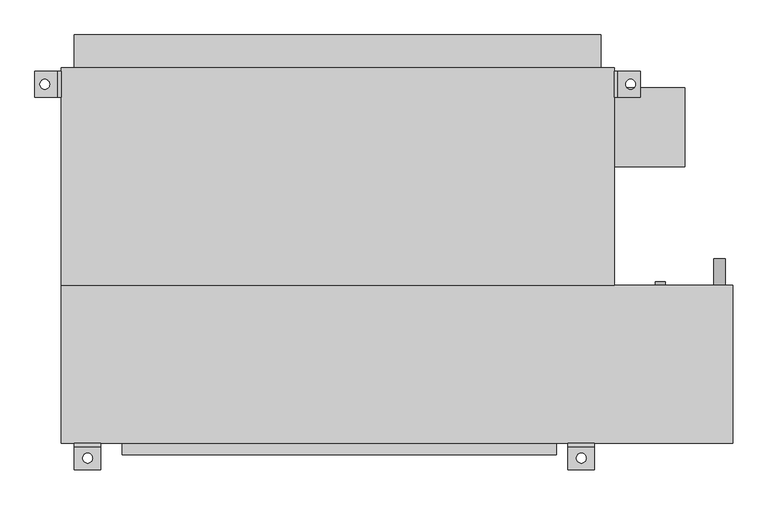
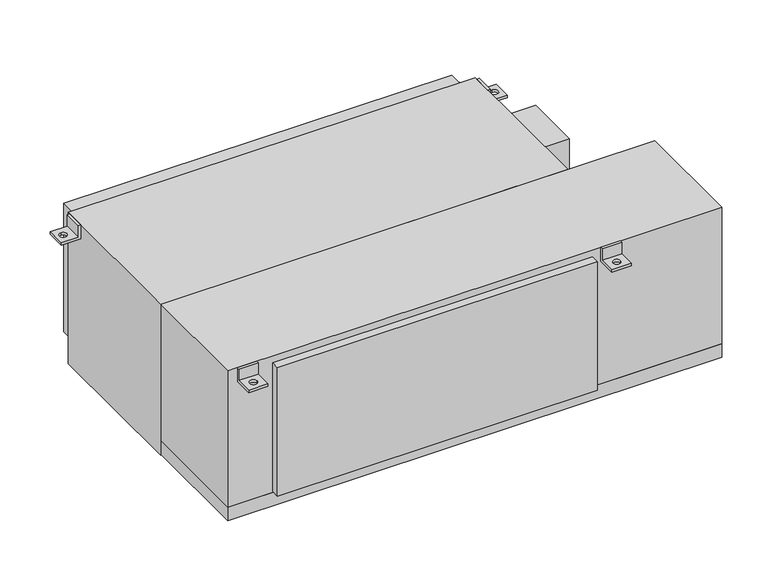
"""IFC4 building model written with IfcOpenShell, lengths in millimetres: proxy geometry, Concealed_High_Capacity_Horizontal_Fan_Coil_Unit_With_Plenum_-_42DCA_-_CARRIER_-_2-Pipe_Cool-EHeat_ValveEnclosure_RH_2022 : Size 14 - 277v/60Hz/1Ph - 6 Row 10.0kW."""

from ifc_helpers import new_model, si_unit, point, frame, frame_2d, origin, place, context, project, spatial, polyline, circle_curve, trimmed, segment, composite_curve, outline, extrude, source, transform, mapped, element, save
from ifc_brep_helpers import plane_surface, revolved_surface, advanced_brep


def mechanical_equipment_cc3e10e3(model_context):
    return source(origin(), model_context, "Body", "SolidModel", [
        advanced_brep(
        [(647.7, -390.525, 0.0), (647.7, -396.875, 0.0), (647.7, -396.875, -31.75), (647.7, -441.325, -31.75), (647.7, -441.325, -38.1), (647.7, -390.525, -38.1), (596.9, -390.525, 0.0), (596.9, -390.525, -38.1), (596.9, -441.325, -38.1), (596.9, -441.325, -31.75), (596.9, -396.875, -31.75), (596.9, -396.875, 0.0), (612.775, -419.1, -31.75), (631.825, -419.1, -31.75), (631.825, -419.1, -38.1), (612.775, -419.1, -38.1)],
        [
            (0, 1),
            (1, 2),
            (2, 3),
            (3, 4),
            (4, 5),
            (5, 0),
            (6, 7),
            (7, 8),
            (8, 9),
            (9, 10),
            (10, 11),
            (11, 6),
            (0, 6),
            (11, 1),
            (10, 2),
            (9, 3),
            (12, 13, circle_curve(frame((622.3, -419.1, -31.75), z_axis=(0.0, 0.0, -1.0), x_axis=(1.0, 0.0, 0.0)), 9.525)),
            (13, 12, circle_curve(frame((622.3, -419.1, -31.75), z_axis=(0.0, 0.0, -1.0), x_axis=(1.0, 0.0, 0.0)), 9.525)),
            (8, 4),
            (7, 5),
            (14, 15, circle_curve(frame((622.3, -419.1, -38.1), z_axis=(0.0, 0.0, 1.0), x_axis=(1.0, 0.0, 0.0)), 9.525)),
            (15, 14, circle_curve(frame((622.3, -419.1, -38.1), z_axis=(0.0, 0.0, 1.0), x_axis=(1.0, 0.0, 0.0)), 9.525)),
            (12, 15),
            (14, 13),
        ],
        [
            plane_surface(frame((647.7, -396.875, 0.0), z_axis=(1.0, 0.0, 0.0), x_axis=(0.0, -1.0, 0.0))),
            plane_surface(frame((596.9, -396.875, 0.0), z_axis=(-1.0, 0.0, 0.0), x_axis=(0.0, 1.0, 0.0))),
            plane_surface(frame((647.7, -390.525, 0.0), z_axis=(0.0, 0.0, 1.0), x_axis=(-1.0, 0.0, 0.0))),
            plane_surface(frame((647.7, -396.875, 0.0), z_axis=(0.0, -1.0, 0.0), x_axis=(-1.0, 0.0, 0.0))),
            plane_surface(frame((647.7, -396.875, -31.75), z_axis=(0.0, 0.0, 1.0), x_axis=(-1.0, 0.0, 0.0))),
            plane_surface(frame((647.7, -441.325, -31.75), z_axis=(0.0, -1.0, 0.0), x_axis=(-1.0, 0.0, 0.0))),
            plane_surface(frame((647.7, -441.325, -38.1), z_axis=(0.0, 0.0, -1.0), x_axis=(-1.0, 0.0, 0.0))),
            plane_surface(frame((647.7, -390.525, -38.1), z_axis=(0.0, 1.0, 0.0), x_axis=(-1.0, 0.0, 0.0))),
            revolved_surface(polyline([(631.8249999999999, -419.1, -38.1), (631.8249999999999, -419.1, -31.75)]), (622.3, -419.1, -31.75), (0.0, 0.0, -1.0)),
        ],
        [
            (0, [[1, 2, 3, 4, 5, 6]]),
            (1, [[7, 8, 9, 10, 11, 12]]),
            (2, [[-1, 13, -12, 14]]),
            (3, [[-2, -14, -11, 15]]),
            (4, [[-3, -15, -10, 16], [17, 18]]),
            (5, [[-4, -16, -9, 19]]),
            (6, [[-5, -19, -8, 20], [21, 22]]),
            (7, [[-6, -20, -7, -13]]),
            (8, [[23, -21, 24, -17]]),
            (8, [[-23, -18, -24, -22]]),
        ],
    ),
        advanced_brep(
        [(-304.8, -390.525, -38.1), (-304.8, -390.525, 0.0), (-304.8, -396.875, 0.0), (-304.8, -396.875, -31.75), (-304.8, -441.325, -31.75), (-304.8, -441.325, -38.1), (-355.6, -390.525, -38.1), (-355.6, -441.325, -38.1), (-355.6, -441.325, -31.75), (-355.6, -396.875, -31.75), (-355.6, -396.875, 0.0), (-355.6, -390.525, 0.0), (-339.725, -419.1, -31.75), (-320.675, -419.1, -31.75), (-320.675, -419.1, -38.1), (-339.725, -419.1, -38.1)],
        [
            (0, 1),
            (1, 2),
            (2, 3),
            (3, 4),
            (4, 5),
            (5, 0),
            (6, 7),
            (7, 8),
            (8, 9),
            (9, 10),
            (10, 11),
            (11, 6),
            (0, 6),
            (11, 1),
            (10, 2),
            (9, 3),
            (8, 4),
            (12, 13, circle_curve(frame((-330.2, -419.1, -31.75), z_axis=(0.0, 0.0, -1.0), x_axis=(1.0, 0.0, 0.0)), 9.525)),
            (13, 12, circle_curve(frame((-330.2, -419.1, -31.75), z_axis=(0.0, 0.0, -1.0), x_axis=(1.0, 0.0, 0.0)), 9.525)),
            (7, 5),
            (14, 15, circle_curve(frame((-330.2, -419.1, -38.1), z_axis=(0.0, 0.0, 1.0), x_axis=(1.0, 0.0, 0.0)), 9.525)),
            (15, 14, circle_curve(frame((-330.2, -419.1, -38.1), z_axis=(0.0, 0.0, 1.0), x_axis=(1.0, 0.0, 0.0)), 9.525)),
            (12, 15),
            (14, 13),
        ],
        [
            plane_surface(frame((-304.8, -390.525, -38.1), z_axis=(1.0, 0.0, 0.0), x_axis=(0.0, 0.0, 1.0))),
            plane_surface(frame((-355.6, -390.525, -38.1), z_axis=(-1.0, 0.0, 0.0), x_axis=(0.0, 0.0, -1.0))),
            plane_surface(frame((-304.8, -390.525, -38.1), z_axis=(0.0, 1.0, 0.0), x_axis=(-1.0, 0.0, 0.0))),
            plane_surface(frame((-304.8, -390.525, 0.0), z_axis=(0.0, 0.0, 1.0), x_axis=(-1.0, 0.0, 0.0))),
            plane_surface(frame((-304.8, -396.875, 0.0), z_axis=(0.0, -1.0, 0.0), x_axis=(-1.0, 0.0, 0.0))),
            plane_surface(frame((-304.8, -396.875, -31.75), z_axis=(0.0, 0.0, 1.0), x_axis=(-1.0, 0.0, 0.0))),
            plane_surface(frame((-304.8, -441.325, -31.75), z_axis=(0.0, -1.0, 0.0), x_axis=(-1.0, 0.0, 0.0))),
            plane_surface(frame((-304.8, -441.325, -38.1), z_axis=(0.0, 0.0, -1.0), x_axis=(-1.0, 0.0, 0.0))),
            revolved_surface(polyline([(-320.675, -419.1, -38.1), (-320.675, -419.1, -31.75)]), (-330.2, -419.1, -31.75), (0.0, 0.0, -1.0)),
        ],
        [
            (0, [[1, 2, 3, 4, 5, 6]]),
            (1, [[7, 8, 9, 10, 11, 12]]),
            (2, [[-1, 13, -12, 14]]),
            (3, [[-2, -14, -11, 15]]),
            (4, [[-3, -15, -10, 16]]),
            (5, [[-4, -16, -9, 17], [18, 19]]),
            (6, [[-5, -17, -8, 20]]),
            (7, [[-6, -20, -7, -13], [21, 22]]),
            (8, [[23, -21, 24, -18]]),
            (8, [[-23, -19, -24, -22]]),
        ],
    ),
        extrude(outline(composite_curve([segment(trimmed(circle_curve(frame_2d((-400.05, 889.0)), 11.1125), [point((-400.05, 877.8875))], [point((-400.05, 900.1125))], False, "CARTESIAN"), True, "CONTINUOUS"), segment(trimmed(circle_curve(frame_2d((-400.05, 889.0)), 11.1125), [point((-400.05, 900.1125))], [point((-400.05, 877.8875))], False, "CARTESIAN"), True, "CONTINUOUS")], self_intersect=False)), frame((0.0, -85.725, 0.0), z_axis=(0.0, 1.0, 0.0), x_axis=(0.0, 0.0, 1.0)), (0.0, 0.0, 1.0), 50.8),
        extrude(outline(composite_curve([segment(trimmed(circle_curve(frame_2d((-44.45, 774.7)), 9.525), [point((-44.45, 765.175))], [point((-44.45, 784.225))], False, "CARTESIAN"), True, "CONTINUOUS"), segment(trimmed(circle_curve(frame_2d((-44.45, 774.7)), 9.525), [point((-44.45, 784.225))], [point((-44.45, 765.175))], False, "CARTESIAN"), True, "CONTINUOUS")], self_intersect=False)), frame((0.0, -85.725, 0.0), z_axis=(0.0, 1.0, 0.0), x_axis=(0.0, 0.0, 1.0)), (0.0, 0.0, 1.0), 6.35),
        extrude(outline(composite_curve([segment(trimmed(circle_curve(frame_2d((-276.225, 774.7)), 9.525), [point((-276.225, 765.175))], [point((-276.225, 784.225))], False, "CARTESIAN"), True, "CONTINUOUS"), segment(trimmed(circle_curve(frame_2d((-276.225, 774.7)), 9.525), [point((-276.225, 784.225))], [point((-276.225, 765.175))], False, "CARTESIAN"), True, "CONTINUOUS")], self_intersect=False)), frame((0.0, -85.725, 0.0), z_axis=(0.0, 1.0, 0.0), x_axis=(0.0, 0.0, 1.0)), (0.0, 0.0, 1.0), 6.35),
        advanced_brep(
        [(-381.0, 327.025, -38.1), (-431.8, 327.025, -38.1), (-431.8, 327.025, -31.75), (-387.35, 327.025, -31.75), (-387.35, 327.025, 0.0), (-381.0, 327.025, 0.0), (-381.0, 276.225, -38.1), (-381.0, 276.225, 0.0), (-387.35, 276.225, 0.0), (-387.35, 276.225, -31.75), (-431.8, 276.225, -31.75), (-431.8, 276.225, -38.1), (-412.75, 292.1, -38.1), (-412.75, 311.15, -38.1), (-412.75, 311.15, -31.75), (-412.75, 292.1, -31.75)],
        [
            (0, 1),
            (1, 2),
            (2, 3),
            (3, 4),
            (4, 5),
            (5, 0),
            (6, 7),
            (7, 8),
            (8, 9),
            (9, 10),
            (10, 11),
            (11, 6),
            (0, 6),
            (11, 1),
            (12, 13, circle_curve(frame((-412.75, 301.625, -38.1), z_axis=(0.0, 0.0, 1.0), x_axis=(0.0, -1.0, 0.0)), 9.525)),
            (13, 12, circle_curve(frame((-412.75, 301.625, -38.1), z_axis=(0.0, 0.0, 1.0), x_axis=(0.0, -1.0, 0.0)), 9.525)),
            (10, 2),
            (9, 3),
            (14, 15, circle_curve(frame((-412.75, 301.625, -31.75), z_axis=(0.0, 0.0, -1.0), x_axis=(0.0, -1.0, 0.0)), 9.525)),
            (15, 14, circle_curve(frame((-412.75, 301.625, -31.75), z_axis=(0.0, 0.0, -1.0), x_axis=(0.0, -1.0, 0.0)), 9.525)),
            (8, 4),
            (7, 5),
            (14, 13),
            (12, 15),
        ],
        [
            plane_surface(frame((-381.0, 327.025, -38.1), z_axis=(0.0, 1.0, 0.0), x_axis=(-1.0, 0.0, 0.0))),
            plane_surface(frame((-381.0, 276.225, -38.1), z_axis=(0.0, -1.0, 0.0), x_axis=(1.0, 0.0, 0.0))),
            plane_surface(frame((-381.0, 327.025, -38.1), z_axis=(0.0, 0.0, -1.0), x_axis=(0.0, -1.0, 0.0))),
            plane_surface(frame((-431.8, 327.025, -38.1), z_axis=(-1.0, 0.0, 0.0), x_axis=(0.0, -1.0, 0.0))),
            plane_surface(frame((-431.8, 327.025, -31.75), z_axis=(0.0, 0.0, 1.0), x_axis=(0.0, -1.0, 0.0))),
            plane_surface(frame((-387.35, 327.025, -31.75), z_axis=(-1.0, 0.0, 0.0), x_axis=(0.0, -1.0, 0.0))),
            plane_surface(frame((-387.35, 327.025, 0.0), z_axis=(0.0, 0.0, 1.0), x_axis=(0.0, -1.0, 0.0))),
            plane_surface(frame((-381.0, 327.025, 0.0), z_axis=(1.0, 0.0, 0.0), x_axis=(0.0, -1.0, 0.0))),
            revolved_surface(polyline([(-412.75, 292.1, -38.1), (-412.75, 292.1, -31.75)]), (-412.75, 301.625, -31.75), (0.0, 0.0, -1.0)),
        ],
        [
            (0, [[1, 2, 3, 4, 5, 6]]),
            (1, [[7, 8, 9, 10, 11, 12]]),
            (2, [[-1, 13, -12, 14], [15, 16]]),
            (3, [[-2, -14, -11, 17]]),
            (4, [[-3, -17, -10, 18], [19, 20]]),
            (5, [[-4, -18, -9, 21]]),
            (6, [[-5, -21, -8, 22]]),
            (7, [[-6, -22, -7, -13]]),
            (8, [[23, -15, 24, -19]]),
            (8, [[-23, -20, -24, -16]]),
        ],
    ),
        advanced_brep(
        [(685.8, 327.025, -38.1), (685.8, 327.025, 0.0), (692.15, 327.025, 0.0), (692.15, 327.025, -31.75), (736.6, 327.025, -31.75), (736.6, 327.025, -38.1), (685.8, 276.225, -38.1), (736.6, 276.225, -38.1), (736.6, 276.225, -31.75), (692.15, 276.225, -31.75), (692.15, 276.225, 0.0), (685.8, 276.225, 0.0), (717.55, 311.15, -31.75), (717.55, 292.1, -31.75), (717.55, 292.1, -38.1), (717.55, 311.15, -38.1)],
        [
            (0, 1),
            (1, 2),
            (2, 3),
            (3, 4),
            (4, 5),
            (5, 0),
            (6, 7),
            (7, 8),
            (8, 9),
            (9, 10),
            (10, 11),
            (11, 6),
            (0, 6),
            (11, 1),
            (10, 2),
            (9, 3),
            (8, 4),
            (12, 13, circle_curve(frame((717.55, 301.625, -31.75), z_axis=(0.0, 0.0, -1.0), x_axis=(0.0, -1.0, 0.0)), 9.525)),
            (13, 12, circle_curve(frame((717.55, 301.625, -31.75), z_axis=(0.0, 0.0, -1.0), x_axis=(0.0, -1.0, 0.0)), 9.525)),
            (7, 5),
            (14, 15, circle_curve(frame((717.55, 301.625, -38.1), z_axis=(0.0, 0.0, 1.0), x_axis=(0.0, -1.0, 0.0)), 9.525)),
            (15, 14, circle_curve(frame((717.55, 301.625, -38.1), z_axis=(0.0, 0.0, 1.0), x_axis=(0.0, -1.0, 0.0)), 9.525)),
            (12, 15),
            (14, 13),
        ],
        [
            plane_surface(frame((-381.0, 327.025, -38.1), z_axis=(0.0, 1.0, 0.0), x_axis=(-1.0, 0.0, 0.0))),
            plane_surface(frame((-381.0, 276.225, -38.1), z_axis=(0.0, -1.0, 0.0), x_axis=(1.0, 0.0, 0.0))),
            plane_surface(frame((685.8, 327.025, -38.1), z_axis=(-1.0, 0.0, 0.0), x_axis=(0.0, -1.0, 0.0))),
            plane_surface(frame((685.8, 327.025, 0.0), z_axis=(0.0, 0.0, 1.0), x_axis=(0.0, -1.0, 0.0))),
            plane_surface(frame((692.15, 327.025, 0.0), z_axis=(1.0, 0.0, 0.0), x_axis=(0.0, -1.0, 0.0))),
            plane_surface(frame((692.15, 327.025, -31.75), z_axis=(0.0, 0.0, 1.0), x_axis=(0.0, -1.0, 0.0))),
            plane_surface(frame((736.6, 327.025, -31.75), z_axis=(1.0, 0.0, 0.0), x_axis=(0.0, -1.0, 0.0))),
            plane_surface(frame((736.6, 327.025, -38.1), z_axis=(0.0, 0.0, -1.0), x_axis=(0.0, -1.0, 0.0))),
            revolved_surface(polyline([(717.55, 292.1, -38.1), (717.55, 292.1, -31.75)]), (717.55, 301.625, -31.75), (0.0, 0.0, -1.0)),
        ],
        [
            (0, [[1, 2, 3, 4, 5, 6]]),
            (1, [[7, 8, 9, 10, 11, 12]]),
            (2, [[-1, 13, -12, 14]]),
            (3, [[-2, -14, -11, 15]]),
            (4, [[-3, -15, -10, 16]]),
            (5, [[-4, -16, -9, 17], [18, 19]]),
            (6, [[-5, -17, -8, 20]]),
            (7, [[-6, -20, -7, -13], [21, 22]]),
            (8, [[23, -21, 24, -18]]),
            (8, [[-23, -19, -24, -22]]),
        ],
    ),
        extrude(outline(polyline([(-355.6, 396.875), (660.4, 396.875), (660.4, 333.375), (-355.6, 333.375), (-355.6, 396.875)])), frame((0.0, 0.0, -377.825), z_axis=(0.0, 0.0, 1.0), x_axis=(1.0, 0.0, 0.0)), (0.0, 0.0, 1.0), 355.6),
        extrude(outline(polyline([(822.325, 295.275), (822.325, 142.875), (685.8, 142.875), (685.8, 295.275), (822.325, 295.275)])), frame((0.0, 0.0, -254.0), z_axis=(0.0, 0.0, 1.0), x_axis=(1.0, 0.0, 0.0)), (0.0, 0.0, 1.0), 152.4),
        extrude(outline(polyline([(574.675, -412.75), (-263.525, -412.75), (-263.525, -390.525), (574.675, -390.525), (574.675, -412.75)])), frame((0.0, 0.0, -374.65), z_axis=(0.0, 0.0, 1.0), x_axis=(1.0, 0.0, 0.0)), (0.0, 0.0, 1.0), 355.6),
        extrude(outline(polyline([(685.8, -85.725), (-381.0, -85.725), (-381.0, 333.375), (685.8, 333.375), (685.8, -85.725)])), frame((0.0, 0.0, -419.1), z_axis=(0.0, 0.0, 1.0), x_axis=(1.0, 0.0, 0.0)), (0.0, 0.0, 1.0), 419.1),
        extrude(outline(polyline([(914.4, -85.725), (914.4, -390.525), (-381.0, -390.525), (-381.0, -85.725), (914.4, -85.725)])), frame((0.0, 0.0, -377.825), z_axis=(0.0, 0.0, 1.0), x_axis=(1.0, 0.0, 0.0)), (0.0, 0.0, 1.0), 377.825),
        extrude(outline(polyline([(914.4, -85.725), (914.4, -390.525), (-381.0, -390.525), (-381.0, -85.725), (914.4, -85.725)])), frame((0.0, 0.0, -415.925), z_axis=(0.0, 0.0, 1.0), x_axis=(1.0, 0.0, 0.0)), (0.0, 0.0, 1.0), 38.1),
    ])


if __name__ == "__main__":
    model = new_model("IFC4")
    model_context = context("Model", 3, world=origin())
    ifc_project = project(units=[si_unit("LENGTHUNIT", "METRE", prefix="MILLI")], contexts=[model_context])
    site = spatial("IfcSite", under=ifc_project)
    building = spatial("IfcBuilding", under=site)
    placement = place(None, origin())
    mechanical_equipment_shape = mechanical_equipment_cc3e10e3(model_context)
    element("IfcBuildingElementProxy", 1, Name="Concealed_High_Capacity_Horizontal_Fan_Coil_Unit_With_Plenum_-_42DCA_-_CARRIER_-_2-Pipe_Cool-EHeat_ValveEnclosure_RH_2022 : Size 14 - 277v/60Hz/1Ph - 6 Row 10.0kW", ObjectType="Concealed_High_Capacity_Horizontal_Fan_Coil_Unit_With_Plenum_-_42DCA_-_CARRIER_-_2-Pipe_Cool-EHeat_ValveEnclosure_RH_2022 : Size 14 - 277v/60Hz/1Ph - 6 Row 10.0kW", at=placement, inside=building, context=model_context, shape_type="MappedRepresentation", body=[
        mapped(mechanical_equipment_shape, transform((0.0, 0.0, 0.0), x_axis=(1.0, 0.0, 0.0), y_axis=(0.0, 1.0, 0.0), z_axis=(0.0, 0.0, 1.0))),
    ])
    save(model, "model.ifc")
